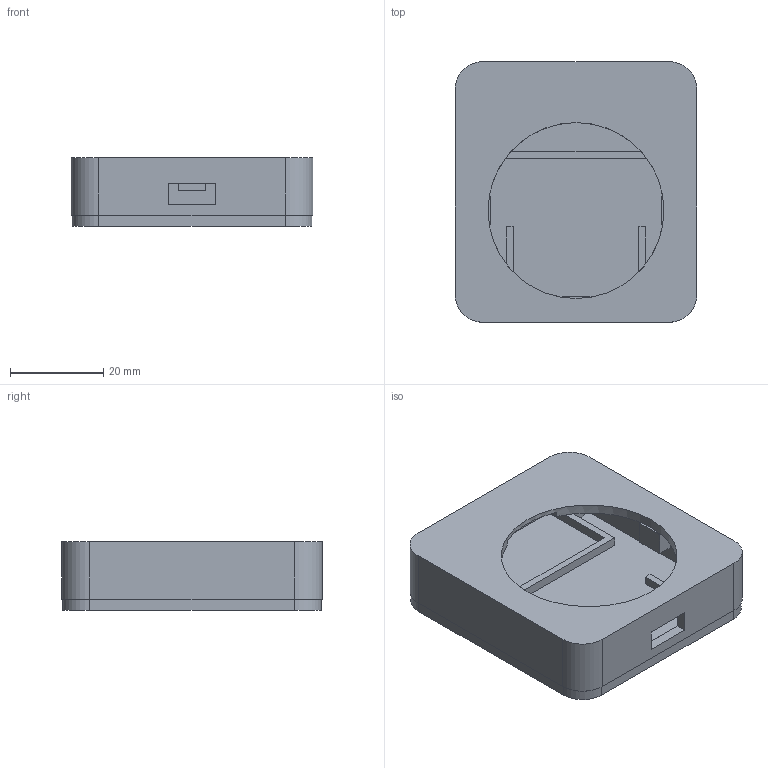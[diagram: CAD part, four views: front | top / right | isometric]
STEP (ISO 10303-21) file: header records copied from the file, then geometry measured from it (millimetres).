
FILE_DESCRIPTION(('Open CASCADE Model'),'2;1');
FILE_NAME('Open CASCADE Shape Model','2026-08-12T19:03:26',('Author'),( 'Open CASCADE'),'Open CASCADE STEP processor 7.9','Open CASCADE 7.9' ,'Unknown');
FILE_SCHEMA(('AUTOMOTIVE_DESIGN { 1 0 10303 214 1 1 1 1 }'));
Length unit declared in the file: millimetre
Products named in the file (3): Cirque_TM040040_enclosure; top_shell; bottom_plate
Assembly tree (2 placements, depth 2):
  Cirque_TM040040_enclosure
    top_shell
    bottom_plate
Bounding box: 52 x 56 x 14.8 mm (x, y, z)
Volume: 16432.2 mm3; surface area: 15822.7 mm2
Topology: 2 solids, 2 shells, 106 faces, 261 edges, 174 vertices
Faces by surface type: plane 76, cylinder 30
Full cylindrical faces by diameter (mm): 2.4 x4, 3.2 x4, 4.3 x4, 10.4 x4, 37.8 x1
Entity records: 6603 total; most frequent: CARTESIAN_POINT 1372, DIRECTION 928, LINE 539, VECTOR 539, ORIENTED_EDGE 522, PCURVE 522, DEFINITIONAL_REPRESENTATION 522, EDGE_CURVE 261
